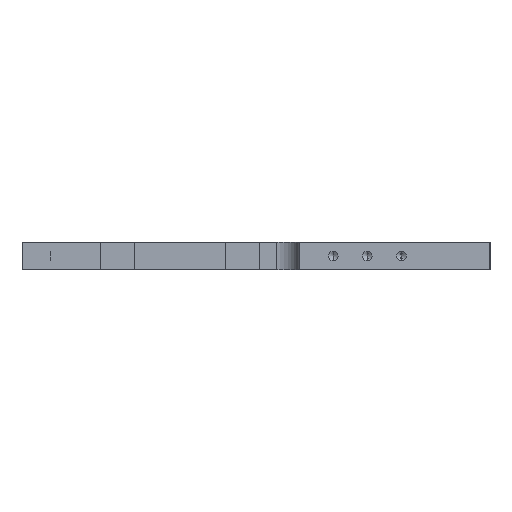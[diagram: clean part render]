
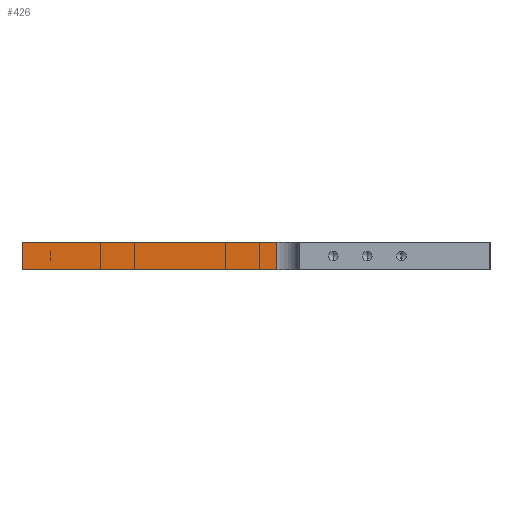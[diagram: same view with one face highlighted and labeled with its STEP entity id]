
A CAD part, left-side view. The second image highlights one B-rep face of the part: STEP entity #426.
In plain terms, the highlighted planar face has unit normal (-1, 0, 0).
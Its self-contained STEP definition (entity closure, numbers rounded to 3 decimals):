
#143 = EDGE_CURVE ( 'NONE', #5145, #2566, #7197, .T. ) ;
#198 = EDGE_CURVE ( 'NONE', #5145, #3443, #4831, .T. ) ;
#426 = ADVANCED_FACE ( 'NONE', ( #6481 ), #3832, .F. ) ;
#456 = LINE ( 'NONE', #2962, #882 ) ;
#495 = DIRECTION ( 'NONE',  ( 0., 0., 1. ) ) ;
#882 = VECTOR ( 'NONE', #7977, 1000. ) ;
#909 = VECTOR ( 'NONE', #2044, 1000. ) ;
#1338 = DIRECTION ( 'NONE',  ( 1., 0., 0. ) ) ;
#1359 = AXIS2_PLACEMENT_3D ( 'NONE', #3219, #1338, #7670 ) ;
#1632 = DIRECTION ( 'NONE',  ( 0., 1., 0. ) ) ;
#2044 = DIRECTION ( 'NONE',  ( 0., 1., 0. ) ) ;
#2566 = VERTEX_POINT ( 'NONE', #4411 ) ;
#2660 = ORIENTED_EDGE ( 'NONE', *, *, #4125, .F. ) ;
#2676 = CARTESIAN_POINT ( 'NONE',  ( -694.5, -78.5, 12. ) ) ;
#2962 = CARTESIAN_POINT ( 'NONE',  ( -694.5, 33.5, 0. ) ) ;
#3219 = CARTESIAN_POINT ( 'NONE',  ( -694.5, 33.5, 0. ) ) ;
#3443 = VERTEX_POINT ( 'NONE', #2676 ) ;
#3654 = CARTESIAN_POINT ( 'NONE',  ( -694.5, -78.5, 0. ) ) ;
#3820 = EDGE_LOOP ( 'NONE', ( #6329, #6894, #7747, #2660 ) ) ;
#3832 = PLANE ( 'NONE',  #1359 ) ;
#4125 = EDGE_CURVE ( 'NONE', #2566, #5300, #456, .T. ) ;
#4411 = CARTESIAN_POINT ( 'NONE',  ( -694.5, 33.5, 0. ) ) ;
#4631 = VECTOR ( 'NONE', #495, 1000. ) ;
#4761 = VECTOR ( 'NONE', #1632, 1000. ) ;
#4831 = LINE ( 'NONE', #5962, #4631 ) ;
#5145 = VERTEX_POINT ( 'NONE', #3654 ) ;
#5300 = VERTEX_POINT ( 'NONE', #6199 ) ;
#5962 = CARTESIAN_POINT ( 'NONE',  ( -694.5, -78.5, 12. ) ) ;
#6199 = CARTESIAN_POINT ( 'NONE',  ( -694.5, 33.5, 12. ) ) ;
#6329 = ORIENTED_EDGE ( 'NONE', *, *, #143, .F. ) ;
#6481 = FACE_OUTER_BOUND ( 'NONE', #3820, .T. ) ;
#6568 = EDGE_CURVE ( 'NONE', #3443, #5300, #7551, .T. ) ;
#6660 = CARTESIAN_POINT ( 'NONE',  ( -694.5, 33.5, 0. ) ) ;
#6894 = ORIENTED_EDGE ( 'NONE', *, *, #198, .T. ) ;
#6972 = CARTESIAN_POINT ( 'NONE',  ( -694.5, 33.5, 12. ) ) ;
#7197 = LINE ( 'NONE', #6660, #4761 ) ;
#7551 = LINE ( 'NONE', #6972, #909 ) ;
#7670 = DIRECTION ( 'NONE',  ( 0., 0., -1. ) ) ;
#7747 = ORIENTED_EDGE ( 'NONE', *, *, #6568, .T. ) ;
#7977 = DIRECTION ( 'NONE',  ( 0., 0., 1. ) ) ;
